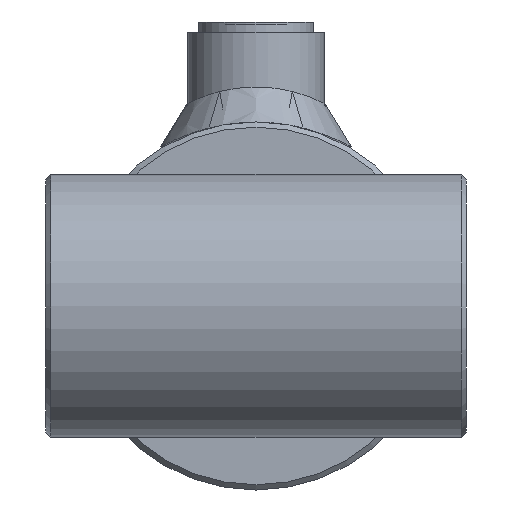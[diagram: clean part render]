
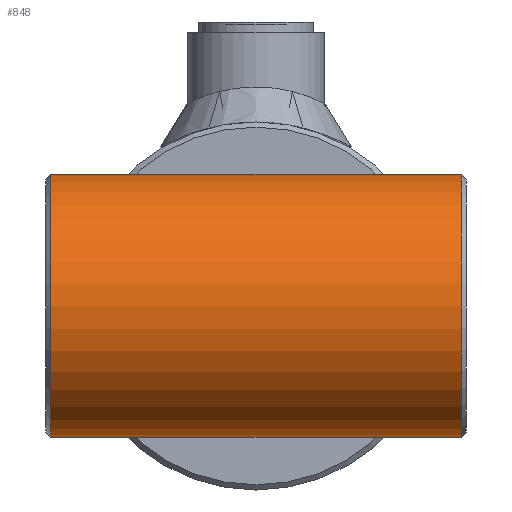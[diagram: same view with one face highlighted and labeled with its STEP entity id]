
A CAD part, left-side view. The second image highlights one B-rep face of the part: STEP entity #848.
In plain terms, the highlighted cylindrical face has radius 25 mm (diameter 50 mm), a full revolution.
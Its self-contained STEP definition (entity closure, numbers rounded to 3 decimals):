
#848 = ADVANCED_FACE( '', ( #1623, #1624 ), #1625, .T. );
#1623 = FACE_OUTER_BOUND( '', #3193, .T. );
#1624 = FACE_OUTER_BOUND( '', #3194, .T. );
#1625 = CYLINDRICAL_SURFACE( '', #3195, 25. );
#3193 = EDGE_LOOP( '', ( #6953 ) );
#3194 = EDGE_LOOP( '', ( #6954 ) );
#3195 = AXIS2_PLACEMENT_3D( '', #6955, #6956, #6957 );
#6953 = ORIENTED_EDGE( '', *, *, #8542, .T. );
#6954 = ORIENTED_EDGE( '', *, *, #8543, .T. );
#6955 = CARTESIAN_POINT( '', ( 0., -40., 0. ) );
#6956 = DIRECTION( '', ( 0., -1., 0. ) );
#6957 = DIRECTION( '', ( 0., 0., 1. ) );
#8542 = EDGE_CURVE( '', #9552, #9552, #9553, .F. );
#8543 = EDGE_CURVE( '', #9554, #9554, #9555, .T. );
#9552 = VERTEX_POINT( '', #11383 );
#9553 = CIRCLE( '', #11384, 25. );
#9554 = VERTEX_POINT( '', #11385 );
#9555 = CIRCLE( '', #11386, 25. );
#11383 = CARTESIAN_POINT( '', ( 0., 39., 25. ) );
#11384 = AXIS2_PLACEMENT_3D( '', #14419, #14420, #14421 );
#11385 = CARTESIAN_POINT( '', ( 0., -39., 25. ) );
#11386 = AXIS2_PLACEMENT_3D( '', #14422, #14423, #14424 );
#14419 = CARTESIAN_POINT( '', ( 0., 39., 0. ) );
#14420 = DIRECTION( '', ( 0., 1., 0. ) );
#14421 = DIRECTION( '', ( 0., 0., 1. ) );
#14422 = CARTESIAN_POINT( '', ( 0., -39., 0. ) );
#14423 = DIRECTION( '', ( 0., 1., 0. ) );
#14424 = DIRECTION( '', ( 0., 0., 1. ) );
